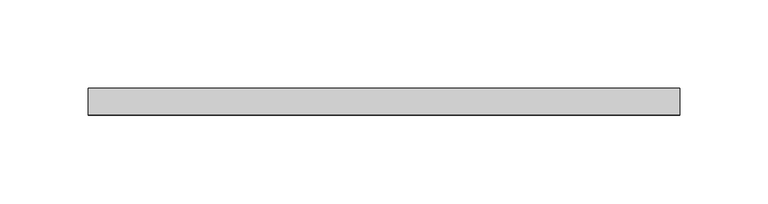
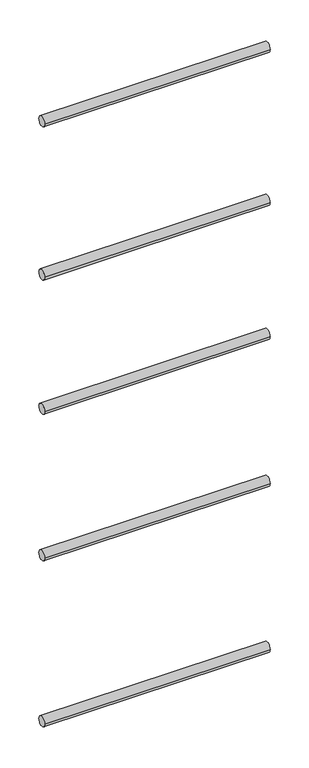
"""IFC4 building model written with IfcOpenShell, lengths in millimetres: railing geometry, ARQ-BA-IN-HiGal-Varillas."""

import ifcopenshell
import ifcopenshell.guid

model = None  # the IFC model being written
_history = None  # IfcOwnerHistory: only IFC2X3 demands one
_inside = {}  # id of a spatial element -> (the spatial element, [elements in it])
_under = {}  # id of a project, library or spatial element -> (it, [spatial elements below it])
_declared = {}  # id of a project -> (the project, [libraries it declares])
_typed = {}  # id of a type object -> (the type object, [elements of that type])
_made_of = {}  # id of a material, layer set ... -> (it, [elements and type objects made of it])


def new_model(schema):
    """Start an empty IFC model of exactly this schema.

    Asked for "IFC4X3", IfcOpenShell would pick the latest addendum, in which some entities
    have other attributes; the version numbers below select the first issue.
    IFC2X3 requires an IfcOwnerHistory on every rooted entity: one is made here for all.
    """
    global model, _history
    if schema == "IFC4X3":
        model = ifcopenshell.file(schema_version=(4, 3, 0, 0))
    else:
        model = ifcopenshell.file(schema=schema)
    _inside.clear()
    _under.clear()
    _declared.clear()
    _typed.clear()
    _made_of.clear()
    _history = None
    if model.schema == "IFC2X3":
        org = make("IfcOrganization", Name="unknown")
        user = make(
            "IfcPersonAndOrganization",
            ThePerson=make("IfcPerson", FamilyName="unknown"),
            TheOrganization=org,
        )
        app = make(
            "IfcApplication",
            ApplicationDeveloper=org,
            Version="unknown",
            ApplicationFullName="unknown",
            ApplicationIdentifier="unknown",
        )
        _history = make(
            "IfcOwnerHistory",
            OwningUser=user,
            OwningApplication=app,
            ChangeAction="ADDED",
            CreationDate=0,
        )
    return model


def make(cls, **values):
    """One entity of the class cls with the attributes given. An attribute that is None is left unset."""
    return model.create_entity(
        cls, **{name: value for name, value in values.items() if value is not None}
    )


def rooted(cls, **values):
    """An entity with a GlobalId (a new one), such as an element, a storey or a relation."""
    return make(cls, GlobalId=ifcopenshell.guid.new(), OwnerHistory=_history, **values)


def si_unit(unit_type, name, prefix=None):
    """IfcSIUnit, for example si_unit("LENGTHUNIT", "METRE", prefix="MILLI")."""
    return make("IfcSIUnit", UnitType=unit_type, Prefix=prefix, Name=name)


def assignment(units):
    """IfcUnitAssignment: the units of a project."""
    return None if units is None else make("IfcUnitAssignment", Units=units)


def point(xyz):
    """IfcCartesianPoint."""
    return None if xyz is None else make("IfcCartesianPoint", Coordinates=xyz)


def direction(xyz):
    """IfcDirection."""
    return None if xyz is None else make("IfcDirection", DirectionRatios=xyz)


def frame(location, z_axis=None, x_axis=None):
    """IfcAxis2Placement3D, a coordinate frame: its origin and axes. An axis left out is left unset."""
    return make(
        "IfcAxis2Placement3D",
        Location=point(location),
        Axis=direction(z_axis),
        RefDirection=direction(x_axis),
    )


def frame_2d(location, x_axis=None):
    """IfcAxis2Placement2D, a coordinate frame in the plane: its origin and x axis."""
    return make(
        "IfcAxis2Placement2D", Location=point(location), RefDirection=direction(x_axis)
    )


def origin():
    """The frame at (0, 0, 0) with its axes left unset."""
    return frame((0.0, 0.0, 0.0))


def place(relative_to, where):
    """IfcLocalPlacement: puts the frame where relative to a parent placement (None: the world)."""
    return make(
        "IfcLocalPlacement", PlacementRelTo=relative_to, RelativePlacement=where
    )


def context(
    kind, dimensions, precision=None, world=None, true_north=None, identifier=None
):
    """IfcGeometricRepresentationContext, for example the 3D "Model" context."""
    return make(
        "IfcGeometricRepresentationContext",
        ContextIdentifier=identifier,
        ContextType=kind,
        CoordinateSpaceDimension=dimensions,
        Precision=precision,
        WorldCoordinateSystem=world,
        TrueNorth=true_north,
    )


def project(units=None, contexts=None):
    """IfcProject with its units and contexts."""
    return rooted(
        "IfcProject",
        Name="project",
        RepresentationContexts=contexts,
        UnitsInContext=assignment(units),
    )


def spatial(cls, under=None, at=None, **own):
    """A site, building, storey or space (cls), placed at a placement, below another one or the project."""
    s = rooted(cls, ObjectPlacement=at, **own)
    if under is not None:
        _under.setdefault(under.id(), (under, []))[1].append(s)
    return s


def circle_curve(where, radius):
    """IfcCircle in the frame where."""
    return make("IfcCircle", Position=where, Radius=radius)


def trimmed(basis, trim1, trim2, sense, master):
    """IfcTrimmedCurve: the piece of a basis curve between two trims."""
    return make(
        "IfcTrimmedCurve",
        BasisCurve=basis,
        Trim1=trim1,
        Trim2=trim2,
        SenseAgreement=sense,
        MasterRepresentation=master,
    )


def segment(curve, same_sense, transition):
    """IfcCompositeCurveSegment."""
    return make(
        "IfcCompositeCurveSegment",
        Transition=transition,
        SameSense=same_sense,
        ParentCurve=curve,
    )


def composite_curve(segments, self_intersect=None):
    """IfcCompositeCurve: segments joined end to end."""
    return make("IfcCompositeCurve", Segments=segments, SelfIntersect=self_intersect)


def outline(outer, holes=None, kind="AREA"):
    """IfcArbitraryClosedProfileDef: a profile drawn as a closed curve; with holes, ...WithVoids."""
    if holes is None:
        return make("IfcArbitraryClosedProfileDef", ProfileType=kind, OuterCurve=outer)
    return make(
        "IfcArbitraryProfileDefWithVoids",
        ProfileType=kind,
        OuterCurve=outer,
        InnerCurves=holes,
    )


def extrude(swept, where, along, depth):
    """IfcExtrudedAreaSolid: the profile swept, set in the frame where, extruded along a direction by depth."""
    return make(
        "IfcExtrudedAreaSolid",
        SweptArea=swept,
        Position=where,
        ExtrudedDirection=direction(along),
        Depth=depth,
    )


def shape(context_of_items, identifier, shape_type, items):
    """IfcShapeRepresentation: the items that make up one representation, for example the "Body"."""
    return make(
        "IfcShapeRepresentation",
        ContextOfItems=context_of_items,
        RepresentationIdentifier=identifier,
        RepresentationType=shape_type,
        Items=items,
    )


def source(mapping_origin, context_of_items, identifier, shape_type, items):
    """IfcRepresentationMap: a shape defined once, which mapped items show again and again."""
    return make(
        "IfcRepresentationMap",
        MappingOrigin=mapping_origin,
        MappedRepresentation=shape(context_of_items, identifier, shape_type, items),
    )


def transform(
    local_origin,
    x_axis=None,
    y_axis=None,
    z_axis=None,
    scale=None,
    scale2=None,
    scale3=None,
    uniform=True,
):
    """IfcCartesianTransformationOperator3D, or its non-uniform kind. x_axis, y_axis, z_axis: its Axis1, 2, 3."""
    if uniform:
        return make(
            "IfcCartesianTransformationOperator3D",
            Axis1=direction(x_axis),
            Axis2=direction(y_axis),
            LocalOrigin=point(local_origin),
            Scale=scale,
            Axis3=direction(z_axis),
        )
    return make(
        "IfcCartesianTransformationOperator3DnonUniform",
        Axis1=direction(x_axis),
        Axis2=direction(y_axis),
        LocalOrigin=point(local_origin),
        Scale=scale,
        Axis3=direction(z_axis),
        Scale2=scale2,
        Scale3=scale3,
    )


def mapped(mapping_source, mapping_target):
    """IfcMappedItem: shows the shape of a source again, moved by a transform."""
    return make(
        "IfcMappedItem", MappingSource=mapping_source, MappingTarget=mapping_target
    )


def made_of(thing, what):
    """Note that an element or type object is made of a material, layer set ...; save() writes the relation."""
    if what is not None:
        _made_of.setdefault(what.id(), (what, []))[1].append(thing)
    return thing


def element(
    cls,
    number,
    at=None,
    inside=None,
    cuts=None,
    type_object=None,
    material=None,
    context=None,
    identifier="Body",
    shape_type=None,
    held_by="IfcProductDefinitionShape",
    body=None,
    shapes=None,
    **own,
):
    """One element of the class cls, such as IfcWall. Its Tag is "e" and its number.

    at: its placement. inside: the storey or other place that contains it. cuts: it is an
    opening in that element (IfcRelVoidsElement). A single representation is given by context,
    identifier, shape_type and body (its items); several are given by shapes. held_by: the class
    of the entity that holds the representations. save() writes the other relations.
    """
    e = rooted(cls, Tag="e%d" % number, ObjectPlacement=at, **own)
    if body is not None:
        shapes = [shape(context, identifier, shape_type, body)]
    if shapes is not None:
        e.Representation = make(held_by, Representations=shapes)
    if inside is not None:
        _inside.setdefault(inside.id(), (inside, []))[1].append(e)
    if cuts is not None:
        rooted(
            "IfcRelVoidsElement", RelatingBuildingElement=cuts, RelatedOpeningElement=e
        )
    if type_object is not None:
        _typed.setdefault(type_object.id(), (type_object, []))[1].append(e)
    return made_of(e, material)


def aggregate(whole, parts):
    """IfcRelAggregates: a whole, such as a stair, and the parts it consists of."""
    return rooted("IfcRelAggregates", RelatingObject=whole, RelatedObjects=parts)


def save(model, path):
    """Write the relations noted so far, then the file.

    IfcRelAggregates (storeys below a building ...), IfcRelContainedInSpatialStructure (elements
    in a storey), IfcRelDefinesByType, IfcRelAssociatesMaterial and IfcRelDeclares: one each for
    every whole, place, type object, material and project.
    """
    for whole, parts in _under.values():
        aggregate(whole, parts)
    for where, things in _inside.values():
        rooted(
            "IfcRelContainedInSpatialStructure",
            RelatedElements=things,
            RelatingStructure=where,
        )
    for kind, things in _typed.values():
        rooted("IfcRelDefinesByType", RelatedObjects=things, RelatingType=kind)
    for what, things in _made_of.values():
        rooted("IfcRelAssociatesMaterial", RelatedObjects=things, RelatingMaterial=what)
    for by, libraries in _declared.values():
        rooted("IfcRelDeclares", RelatingContext=by, RelatedDefinitions=libraries)
    model.write(path)


def railing_5429e01b(model_context):
    return source(origin(), model_context, "Body", "SweptSolid", [
        extrude(outline(composite_curve([segment(trimmed(circle_curve(frame_2d((1484.5940615, 6112.5)), 7.5), [point((1477.0940615, 6112.5))], [point((1492.0940615, 6112.5))], False, "CARTESIAN"), True, "CONTINUOUS"), segment(trimmed(circle_curve(frame_2d((1484.5940615, 6112.5)), 7.5), [point((1492.0940615, 6112.5))], [point((1477.0940615, 6112.5))], False, "CARTESIAN"), True, "CONTINUOUS")], self_intersect=False)), frame((6034.2897792, 0.0, 0.0), z_axis=(1.0, 0.0, 0.0), x_axis=(0.0, 1.0, 0.0)), (0.0, 0.0, 1.0), 334.522847),
        extrude(outline(composite_curve([segment(trimmed(circle_curve(frame_2d((1484.5940615, 5872.5)), 7.5), [point((1477.0940615, 5872.5))], [point((1492.0940615, 5872.5))], False, "CARTESIAN"), True, "CONTINUOUS"), segment(trimmed(circle_curve(frame_2d((1484.5940615, 5872.5)), 7.5), [point((1492.0940615, 5872.5))], [point((1477.0940615, 5872.5))], False, "CARTESIAN"), True, "CONTINUOUS")], self_intersect=False)), frame((6034.2897792, 0.0, 0.0), z_axis=(1.0, 0.0, 0.0), x_axis=(0.0, 1.0, 0.0)), (0.0, 0.0, 1.0), 334.522847),
        extrude(outline(composite_curve([segment(trimmed(circle_curve(frame_2d((1484.5940615, 5662.5)), 7.5), [point((1477.0940615, 5662.5))], [point((1492.0940615, 5662.5))], False, "CARTESIAN"), True, "CONTINUOUS"), segment(trimmed(circle_curve(frame_2d((1484.5940615, 5662.5)), 7.5), [point((1492.0940615, 5662.5))], [point((1477.0940615, 5662.5))], False, "CARTESIAN"), True, "CONTINUOUS")], self_intersect=False)), frame((6034.2897792, 0.0, 0.0), z_axis=(1.0, 0.0, 0.0), x_axis=(0.0, 1.0, 0.0)), (0.0, 0.0, 1.0), 334.522847),
        extrude(outline(composite_curve([segment(trimmed(circle_curve(frame_2d((1484.5940615, 5432.5)), 7.5), [point((1477.0940615, 5432.5))], [point((1492.0940615, 5432.5))], False, "CARTESIAN"), True, "CONTINUOUS"), segment(trimmed(circle_curve(frame_2d((1484.5940615, 5432.5)), 7.5), [point((1492.0940615, 5432.5))], [point((1477.0940615, 5432.5))], False, "CARTESIAN"), True, "CONTINUOUS")], self_intersect=False)), frame((6034.2897792, 0.0, 0.0), z_axis=(1.0, 0.0, 0.0), x_axis=(0.0, 1.0, 0.0)), (0.0, 0.0, 1.0), 334.522847),
        extrude(outline(composite_curve([segment(trimmed(circle_curve(frame_2d((1484.5940615, 5172.5)), 7.5), [point((1477.0940615, 5172.5))], [point((1492.0940615, 5172.5))], False, "CARTESIAN"), True, "CONTINUOUS"), segment(trimmed(circle_curve(frame_2d((1484.5940615, 5172.5)), 7.5), [point((1492.0940615, 5172.5))], [point((1477.0940615, 5172.5))], False, "CARTESIAN"), True, "CONTINUOUS")], self_intersect=False)), frame((6034.2897792, 0.0, 0.0), z_axis=(1.0, 0.0, 0.0), x_axis=(0.0, 1.0, 0.0)), (0.0, 0.0, 1.0), 334.522847),
    ])


if __name__ == "__main__":
    model = new_model("IFC4")
    model_context = context("Model", 3, world=origin())
    ifc_project = project(units=[si_unit("LENGTHUNIT", "METRE", prefix="MILLI")], contexts=[model_context])
    site = spatial("IfcSite", under=ifc_project)
    building = spatial("IfcBuilding", under=site)
    placement = place(None, origin())
    railing_shape = railing_5429e01b(model_context)
    element("IfcRailing", 1, ObjectType="ARQ-BA-IN-HiGal-Varillas", at=placement, inside=building, context=model_context, shape_type="MappedRepresentation", body=[
        mapped(railing_shape, transform((0.0, 0.0, 0.0), x_axis=(1.0, 0.0, 0.0), y_axis=(0.0, 1.0, 0.0), z_axis=(0.0, 0.0, 1.0))),
    ])
    save(model, "model.ifc")
